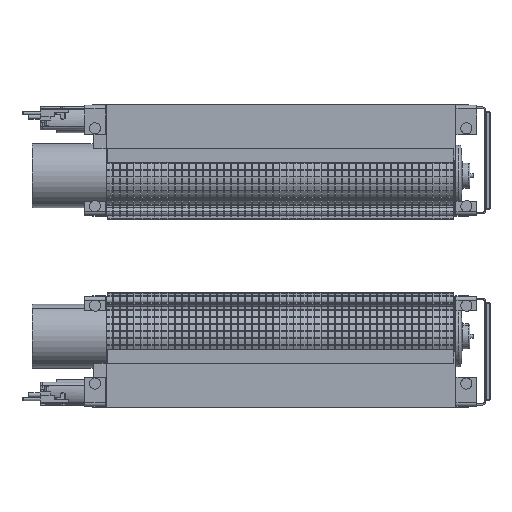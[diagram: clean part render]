
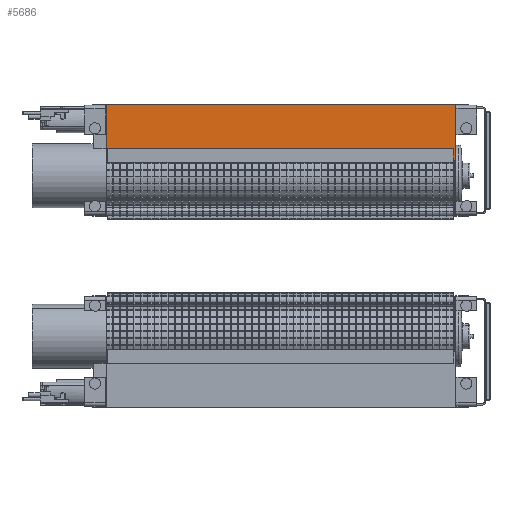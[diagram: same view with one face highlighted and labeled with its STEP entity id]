
A CAD part, top view. The second image highlights one B-rep face of the part: STEP entity #5686.
In plain terms, the highlighted planar face has unit normal (0, 0, 1).
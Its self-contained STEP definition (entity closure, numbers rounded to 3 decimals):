
#1444=CARTESIAN_POINT('Axis2P3D Location',(0.,0.,130.)) ;
#5216=CARTESIAN_POINT('Line Origine',(-251.,355.,130.)) ;
#5220=CARTESIAN_POINT('Vertex',(-251.,277.,130.)) ;
#5222=CARTESIAN_POINT('Vertex',(-251.,433.,130.)) ;
#5371=CARTESIAN_POINT('Axis2P3D Location',(-252.,277.,130.)) ;
#5375=CARTESIAN_POINT('Vertex',(-252.,276.,130.)) ;
#5402=CARTESIAN_POINT('Axis2P3D Location',(-252.,433.,130.)) ;
#5406=CARTESIAN_POINT('Vertex',(-252.,434.,130.)) ;
#5487=CARTESIAN_POINT('Vertex',(-270.,276.,130.)) ;
#5490=CARTESIAN_POINT('Line Origine',(-261.,276.,130.)) ;
#5538=CARTESIAN_POINT('Line Origine',(261.,275.,130.)) ;
#5542=CARTESIAN_POINT('Vertex',(270.,275.,130.)) ;
#5544=CARTESIAN_POINT('Vertex',(252.,275.,130.)) ;
#5547=CARTESIAN_POINT('Line Origine',(270.,275.5,130.)) ;
#5551=CARTESIAN_POINT('Vertex',(270.,276.,130.)) ;
#5554=CARTESIAN_POINT('Line Origine',(261.,276.,130.)) ;
#5558=CARTESIAN_POINT('Vertex',(252.,276.,130.)) ;
#5561=CARTESIAN_POINT('Axis2P3D Location',(252.,277.,130.)) ;
#5565=CARTESIAN_POINT('Vertex',(251.,277.,130.)) ;
#5568=CARTESIAN_POINT('Line Origine',(251.,355.,130.)) ;
#5572=CARTESIAN_POINT('Vertex',(251.,433.,130.)) ;
#5575=CARTESIAN_POINT('Axis2P3D Location',(252.,433.,130.)) ;
#5579=CARTESIAN_POINT('Vertex',(252.,434.,130.)) ;
#5582=CARTESIAN_POINT('Line Origine',(261.,434.,130.)) ;
#5586=CARTESIAN_POINT('Vertex',(270.,434.,130.)) ;
#5589=CARTESIAN_POINT('Line Origine',(270.,434.5,130.)) ;
#5593=CARTESIAN_POINT('Vertex',(270.,435.,130.)) ;
#5596=CARTESIAN_POINT('Line Origine',(0.,435.,130.)) ;
#5600=CARTESIAN_POINT('Vertex',(-270.,435.,130.)) ;
#5603=CARTESIAN_POINT('Line Origine',(-270.,434.5,130.)) ;
#5607=CARTESIAN_POINT('Vertex',(-270.,434.,130.)) ;
#5610=CARTESIAN_POINT('Line Origine',(-261.,434.,130.)) ;
#5615=CARTESIAN_POINT('Line Origine',(-270.,275.5,130.)) ;
#5619=CARTESIAN_POINT('Vertex',(-270.,275.,130.)) ;
#5622=CARTESIAN_POINT('Line Origine',(-261.,275.,130.)) ;
#5626=CARTESIAN_POINT('Vertex',(-252.,275.,130.)) ;
#5629=CARTESIAN_POINT('Axis2P3D Location',(-252.,277.,130.)) ;
#5633=CARTESIAN_POINT('Vertex',(-250.,277.,130.)) ;
#5636=CARTESIAN_POINT('Line Origine',(-250.,316.,130.)) ;
#5640=CARTESIAN_POINT('Vertex',(-250.,355.,130.)) ;
#5643=CARTESIAN_POINT('Line Origine',(0.,355.,130.)) ;
#5647=CARTESIAN_POINT('Vertex',(250.,355.,130.)) ;
#5650=CARTESIAN_POINT('Line Origine',(250.,316.,130.)) ;
#5654=CARTESIAN_POINT('Vertex',(250.,277.,130.)) ;
#5657=CARTESIAN_POINT('Axis2P3D Location',(252.,277.,130.)) ;
#5218=VECTOR('Line Direction',#5217,1.) ;
#5492=VECTOR('Line Direction',#5491,1.) ;
#5540=VECTOR('Line Direction',#5539,1.) ;
#5549=VECTOR('Line Direction',#5548,1.) ;
#5556=VECTOR('Line Direction',#5555,1.) ;
#5570=VECTOR('Line Direction',#5569,1.) ;
#5584=VECTOR('Line Direction',#5583,1.) ;
#5591=VECTOR('Line Direction',#5590,1.) ;
#5598=VECTOR('Line Direction',#5597,1.) ;
#5605=VECTOR('Line Direction',#5604,1.) ;
#5612=VECTOR('Line Direction',#5611,1.) ;
#5617=VECTOR('Line Direction',#5616,1.) ;
#5624=VECTOR('Line Direction',#5623,1.) ;
#5638=VECTOR('Line Direction',#5637,1.) ;
#5645=VECTOR('Line Direction',#5644,1.) ;
#5652=VECTOR('Line Direction',#5651,1.) ;
#1445=DIRECTION('Axis2P3D Direction',(0.,0.,-1.)) ;
#1446=DIRECTION('Axis2P3D XDirection',(0.,1.,0.)) ;
#5217=DIRECTION('Vector Direction',(0.,-1.,0.)) ;
#5372=DIRECTION('Axis2P3D Direction',(-0.,0.,1.)) ;
#5403=DIRECTION('Axis2P3D Direction',(0.,0.,1.)) ;
#5491=DIRECTION('Vector Direction',(1.,0.,0.)) ;
#5539=DIRECTION('Vector Direction',(1.,0.,0.)) ;
#5548=DIRECTION('Vector Direction',(0.,-1.,0.)) ;
#5555=DIRECTION('Vector Direction',(-1.,0.,0.)) ;
#5562=DIRECTION('Axis2P3D Direction',(0.,0.,-1.)) ;
#5569=DIRECTION('Vector Direction',(0.,-1.,0.)) ;
#5576=DIRECTION('Axis2P3D Direction',(0.,0.,-1.)) ;
#5583=DIRECTION('Vector Direction',(1.,0.,0.)) ;
#5590=DIRECTION('Vector Direction',(0.,-1.,0.)) ;
#5597=DIRECTION('Vector Direction',(1.,0.,0.)) ;
#5604=DIRECTION('Vector Direction',(0.,-1.,0.)) ;
#5611=DIRECTION('Vector Direction',(-1.,0.,0.)) ;
#5616=DIRECTION('Vector Direction',(0.,-1.,0.)) ;
#5623=DIRECTION('Vector Direction',(-1.,0.,0.)) ;
#5630=DIRECTION('Axis2P3D Direction',(0.,0.,-1.)) ;
#5637=DIRECTION('Vector Direction',(0.,1.,0.)) ;
#5644=DIRECTION('Vector Direction',(1.,0.,0.)) ;
#5651=DIRECTION('Vector Direction',(0.,1.,0.)) ;
#5658=DIRECTION('Axis2P3D Direction',(0.,0.,-1.)) ;
#1447=AXIS2_PLACEMENT_3D('Plane Axis2P3D',#1444,#1445,#1446) ;
#5373=AXIS2_PLACEMENT_3D('Circle Axis2P3D',#5371,#5372,$) ;
#5404=AXIS2_PLACEMENT_3D('Circle Axis2P3D',#5402,#5403,$) ;
#5563=AXIS2_PLACEMENT_3D('Circle Axis2P3D',#5561,#5562,$) ;
#5577=AXIS2_PLACEMENT_3D('Circle Axis2P3D',#5575,#5576,$) ;
#5631=AXIS2_PLACEMENT_3D('Circle Axis2P3D',#5629,#5630,$) ;
#5659=AXIS2_PLACEMENT_3D('Circle Axis2P3D',#5657,#5658,$) ;
#5219=LINE('Line',#5216,#5218) ;
#5493=LINE('Line',#5490,#5492) ;
#5541=LINE('Line',#5538,#5540) ;
#5550=LINE('Line',#5547,#5549) ;
#5557=LINE('Line',#5554,#5556) ;
#5571=LINE('Line',#5568,#5570) ;
#5585=LINE('Line',#5582,#5584) ;
#5592=LINE('Line',#5589,#5591) ;
#5599=LINE('Line',#5596,#5598) ;
#5606=LINE('Line',#5603,#5605) ;
#5613=LINE('Line',#5610,#5612) ;
#5618=LINE('Line',#5615,#5617) ;
#5625=LINE('Line',#5622,#5624) ;
#5639=LINE('Line',#5636,#5638) ;
#5646=LINE('Line',#5643,#5645) ;
#5653=LINE('Line',#5650,#5652) ;
#5374=CIRCLE('generated circle',#5373,1.) ;
#5405=CIRCLE('generated circle',#5404,1.) ;
#5564=CIRCLE('generated circle',#5563,1.) ;
#5578=CIRCLE('generated circle',#5577,1.) ;
#5632=CIRCLE('generated circle',#5631,2.) ;
#5660=CIRCLE('generated circle',#5659,2.) ;
#1448=PLANE('',#1447) ;
#5224=EDGE_CURVE('',#5221,#5223,#5219,.F.) ;
#5377=EDGE_CURVE('',#5376,#5221,#5374,.T.) ;
#5408=EDGE_CURVE('',#5223,#5407,#5405,.T.) ;
#5494=EDGE_CURVE('',#5488,#5376,#5493,.T.) ;
#5546=EDGE_CURVE('',#5543,#5545,#5541,.F.) ;
#5553=EDGE_CURVE('',#5552,#5543,#5550,.T.) ;
#5560=EDGE_CURVE('',#5559,#5552,#5557,.F.) ;
#5567=EDGE_CURVE('',#5566,#5559,#5564,.F.) ;
#5574=EDGE_CURVE('',#5573,#5566,#5571,.T.) ;
#5581=EDGE_CURVE('',#5580,#5573,#5578,.F.) ;
#5588=EDGE_CURVE('',#5587,#5580,#5585,.F.) ;
#5595=EDGE_CURVE('',#5594,#5587,#5592,.T.) ;
#5602=EDGE_CURVE('',#5601,#5594,#5599,.T.) ;
#5609=EDGE_CURVE('',#5608,#5601,#5606,.F.) ;
#5614=EDGE_CURVE('',#5407,#5608,#5613,.T.) ;
#5621=EDGE_CURVE('',#5620,#5488,#5618,.F.) ;
#5628=EDGE_CURVE('',#5627,#5620,#5625,.T.) ;
#5635=EDGE_CURVE('',#5627,#5634,#5632,.F.) ;
#5642=EDGE_CURVE('',#5641,#5634,#5639,.F.) ;
#5649=EDGE_CURVE('',#5641,#5648,#5646,.T.) ;
#5656=EDGE_CURVE('',#5655,#5648,#5653,.T.) ;
#5661=EDGE_CURVE('',#5655,#5545,#5660,.F.) ;
#5662=EDGE_LOOP('',(#5663,#5664,#5665,#5666,#5667,#5668,#5669,#5670,#5671,#5672,#5673,#5674,#5675,#5676,#5677,#5678,#5679,#5680,#5681,#5682,#5683,#5684)) ;
#5663=ORIENTED_EDGE('',*,*,#5546,.F.) ;
#5664=ORIENTED_EDGE('',*,*,#5553,.F.) ;
#5665=ORIENTED_EDGE('',*,*,#5560,.F.) ;
#5666=ORIENTED_EDGE('',*,*,#5567,.F.) ;
#5667=ORIENTED_EDGE('',*,*,#5574,.F.) ;
#5668=ORIENTED_EDGE('',*,*,#5581,.F.) ;
#5669=ORIENTED_EDGE('',*,*,#5588,.F.) ;
#5670=ORIENTED_EDGE('',*,*,#5595,.F.) ;
#5671=ORIENTED_EDGE('',*,*,#5602,.F.) ;
#5672=ORIENTED_EDGE('',*,*,#5609,.F.) ;
#5673=ORIENTED_EDGE('',*,*,#5614,.F.) ;
#5674=ORIENTED_EDGE('',*,*,#5408,.F.) ;
#5675=ORIENTED_EDGE('',*,*,#5224,.F.) ;
#5676=ORIENTED_EDGE('',*,*,#5377,.F.) ;
#5677=ORIENTED_EDGE('',*,*,#5494,.F.) ;
#5678=ORIENTED_EDGE('',*,*,#5621,.F.) ;
#5679=ORIENTED_EDGE('',*,*,#5628,.F.) ;
#5680=ORIENTED_EDGE('',*,*,#5635,.T.) ;
#5681=ORIENTED_EDGE('',*,*,#5642,.F.) ;
#5682=ORIENTED_EDGE('',*,*,#5649,.T.) ;
#5683=ORIENTED_EDGE('',*,*,#5656,.F.) ;
#5684=ORIENTED_EDGE('',*,*,#5661,.T.) ;
#5221=VERTEX_POINT('',#5220) ;
#5223=VERTEX_POINT('',#5222) ;
#5376=VERTEX_POINT('',#5375) ;
#5407=VERTEX_POINT('',#5406) ;
#5488=VERTEX_POINT('',#5487) ;
#5543=VERTEX_POINT('',#5542) ;
#5545=VERTEX_POINT('',#5544) ;
#5552=VERTEX_POINT('',#5551) ;
#5559=VERTEX_POINT('',#5558) ;
#5566=VERTEX_POINT('',#5565) ;
#5573=VERTEX_POINT('',#5572) ;
#5580=VERTEX_POINT('',#5579) ;
#5587=VERTEX_POINT('',#5586) ;
#5594=VERTEX_POINT('',#5593) ;
#5601=VERTEX_POINT('',#5600) ;
#5608=VERTEX_POINT('',#5607) ;
#5620=VERTEX_POINT('',#5619) ;
#5627=VERTEX_POINT('',#5626) ;
#5634=VERTEX_POINT('',#5633) ;
#5641=VERTEX_POINT('',#5640) ;
#5648=VERTEX_POINT('',#5647) ;
#5655=VERTEX_POINT('',#5654) ;
#5686=ADVANCED_FACE('PartBody',(#5685),#1448,.F.) ;
#5685=FACE_OUTER_BOUND('',#5662,.T.) ;
